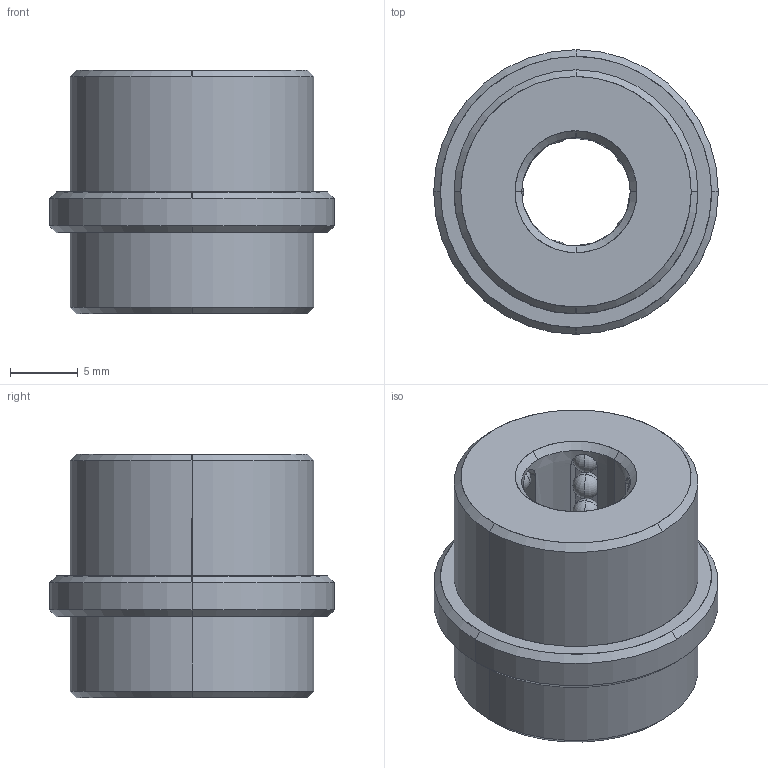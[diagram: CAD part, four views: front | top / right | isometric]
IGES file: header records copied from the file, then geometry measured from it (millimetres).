
Start section: START RECORD GO HERE.
Global section: file name: B8020812.igs; native system: DASSAULT SYSTEMES CATIA V5 R20 - www.3ds.com; preprocessor: CATIA Version 5 Release 20 ; author: Utente; organization: NB04-ASUS; date: 20200419.150532; units: millimetre
Bounding box: 21 x 21 x 18 mm (x, y, z)
Surface area: 2786.5 mm2 (no closed solid volume)
Topology: 0 solids, 0 shells, 201 faces, 854 edges, 574 vertices
Faces by surface type: revolution 182, plane 19
